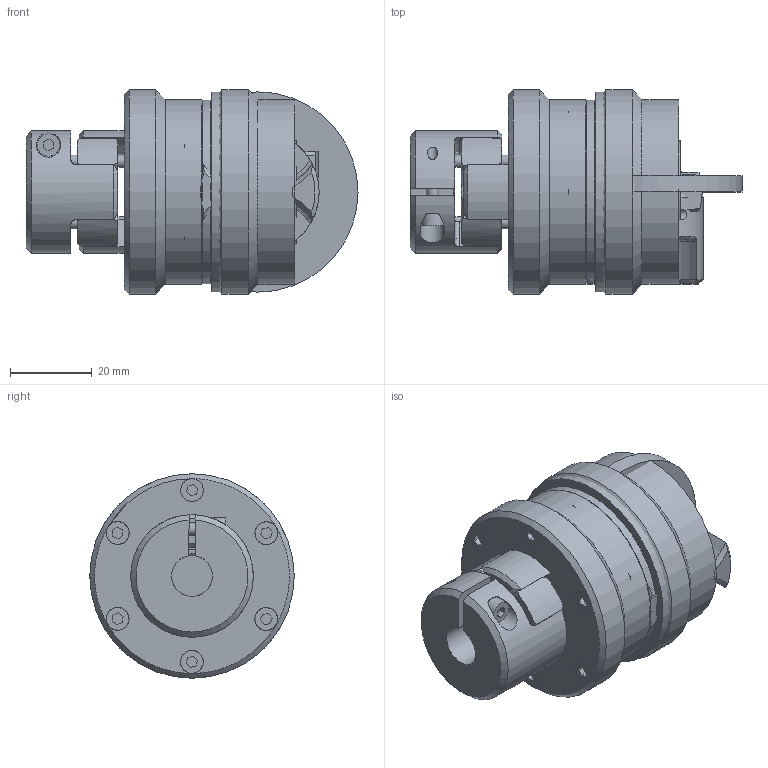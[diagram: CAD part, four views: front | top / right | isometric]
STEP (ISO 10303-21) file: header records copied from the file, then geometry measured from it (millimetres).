
FILE_DESCRIPTION( ( 'Unknown' ), '1' );
FILE_NAME( 'C:/Dokumente und Einstellungen/Sven/Desktop/hp kbk/E-KI/KBK EKI 14.stp', 'Unknown', ( 'Unknown' ), ( 'Unknown' ), 'XStep 1.0', 'Unknown', ' ' );
FILE_SCHEMA( ( 'automotive_design' ) );
Length unit declared in the file: millimetre
Products named in the file (17): Assem1; Assem2; Assem3; ball_bearing_-_61904_0_01; ball_bearing_-_61904_0_02; ball_bearing_-_61904_0_03; Zylinderschraube DIN 912; Stellring 10; Druckring 10; a_20; Flansch L-LL10; Elastomerflansch EK 10; Zahnkranz_14_Standard; KBE 2 - 14_Nabe; KBK L-I-10 Grundkörper; Konusbuchse KBK 10; din_en_24017_m3x12
Bounding box: 81.2 x 50 x 50 mm (x, y, z)
Volume: 125780.4 mm3; surface area: 85608.6 mm2
Topology: 41 solids, 41 shells, 758 faces, 1704 edges, 1081 vertices
Faces by surface type: plane 321, cylinder 246, cone 149, torus 42
Full cylindrical faces by diameter (mm): 2 x4, 2.459 x28, 2.5 x2, 3 x22, 3.1 x8, 3.4 x12, 3.5 x2, 4.57 x5, 5.5 x9, 5.6 x12, 6 x4, 10 x4, 14 x2, 16 x2, 19 x2, 20 x7, 24 x4, 25 x4, 25.6 x6, 29 x2, 29.993 x2, 30 x2, 31.4 x6, 37 x7, 38 x2, 40 x2, 45 x2, 45.2 x2, 49 x2, 50 x2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
Entity records: 8735 total; most frequent: CARTESIAN_POINT 1815, DIRECTION 1419, ORIENTED_EDGE 1074, AXIS2_PLACEMENT_3D 650, EDGE_CURVE 537, EDGE_LOOP 461, VERTEX_POINT 390, FACE_OUTER_BOUND 373
